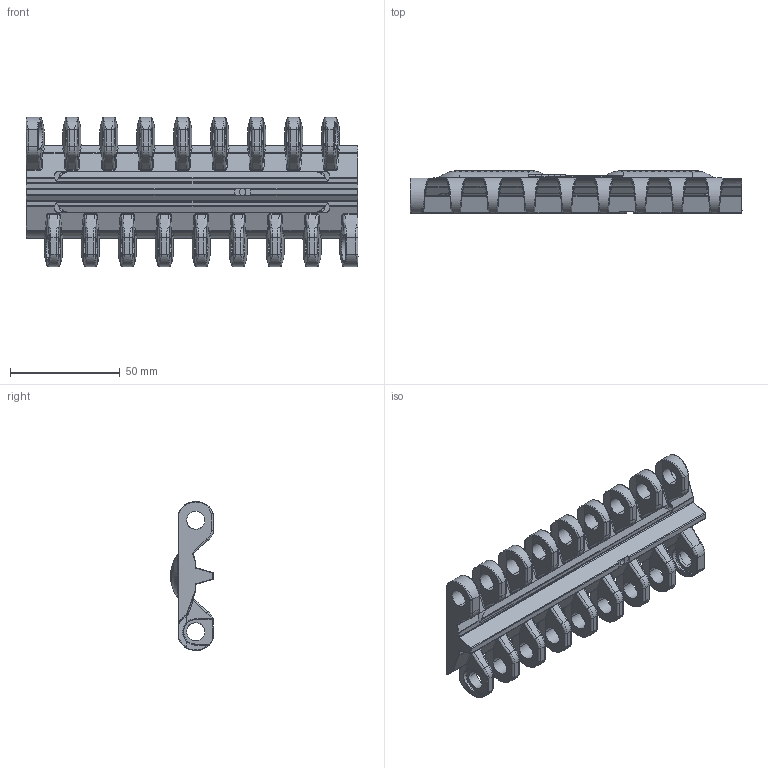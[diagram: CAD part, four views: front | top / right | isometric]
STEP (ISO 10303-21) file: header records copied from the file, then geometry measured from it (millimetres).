
FILE_DESCRIPTION((''),'2;1');
FILE_NAME('K57_ASM','2011-12-22T',('mth'),(''),'PRO/ENGINEER BY PARAMETRIC TECHNOLOGY CORPORATION, 2010280','PRO/ENGINEER BY PARAMETRIC TECHNOLOGY CORPORATION, 2010280','');
FILE_SCHEMA(('CONFIG_CONTROL_DESIGN','SHAPE_APPEARANCE_LAYERS_GROUPS'));
Products named in the file (3): P839; EMMEGI-GUMMI; K57_ASM
Assembly tree (2 placements, depth 2):
  K57_ASM
    P839
    EMMEGI-GUMMI
Bounding box: 151 x 19.49 x 67.8 mm (x, y, z)
Volume: 70193.2 mm3; surface area: 41840.4 mm2
Topology: 2 solids, 2 shells, 2930 faces, 6844 edges, 3890 vertices
Faces by surface type: plane 1756, bspline 454, cylinder 450, cone 224, torus 24, sphere 22
Entity records: 136182 total; most frequent: CARTESIAN_POINT 54499, ORIENTED_EDGE 13688, DIRECTION 11012, PRESENTATION_STYLE_ASSIGNMENT 6846, STYLED_ITEM 6846, CURVE_STYLE 6844, EDGE_CURVE 6844, VERTEX_POINT 3890
